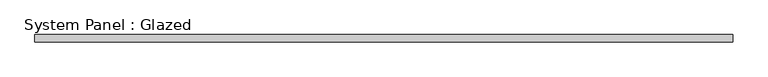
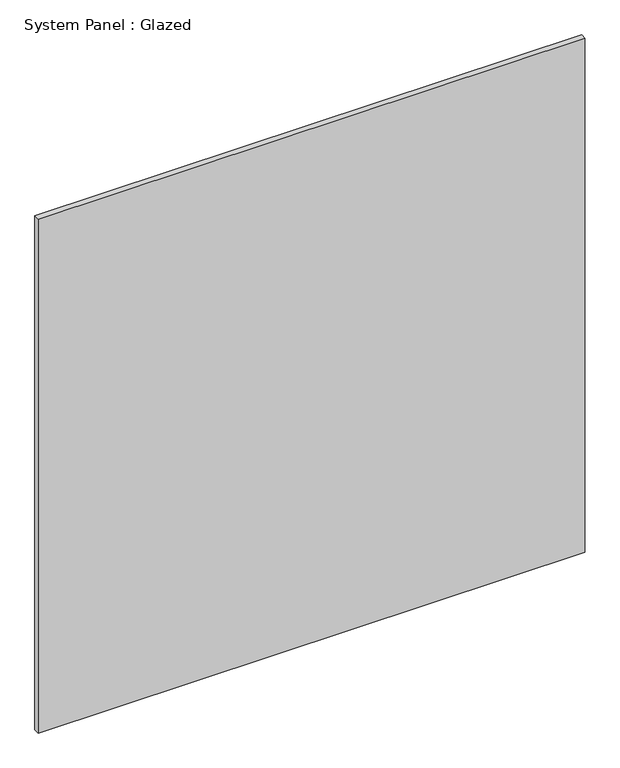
"""IFC4 building model written with IfcOpenShell, lengths in millimetres: plate geometry, System Panel : Glazed."""

from ifc_helpers import new_model, si_unit, origin, origin_with_axes, place, context, project, spatial, polyline, outline, extrude, source, transform, mapped, element, save


def system_panel_glazed_67a76392(model_context):
    return source(origin(), model_context, "Body", "SweptSolid", [
        extrude(outline(polyline([(1235.2309405, 19.05), (-1235.2309405, 19.05), (-1235.2309405, 44.45), (1235.2309405, 44.45), (1235.2309405, 19.05)])), origin_with_axes(), (0.0, 0.0, 1.0), 2455.3333333),
    ])


if __name__ == "__main__":
    model = new_model("IFC4")
    model_context = context("Model", 3, world=origin())
    ifc_project = project(units=[si_unit("LENGTHUNIT", "METRE", prefix="MILLI")], contexts=[model_context])
    site = spatial("IfcSite", under=ifc_project)
    building = spatial("IfcBuilding", under=site)
    placement = place(None, origin())
    system_panel_glazed_shape = system_panel_glazed_67a76392(model_context)
    element("IfcPlate", 1, ObjectType="System Panel : Glazed", at=placement, inside=building, context=model_context, shape_type="MappedRepresentation", body=[
        mapped(system_panel_glazed_shape, transform((0.0, 0.0, 0.0), x_axis=(1.0, 0.0, 0.0), y_axis=(0.0, 1.0, 0.0), z_axis=(0.0, 0.0, 1.0))),
    ])
    save(model, "model.ifc")
